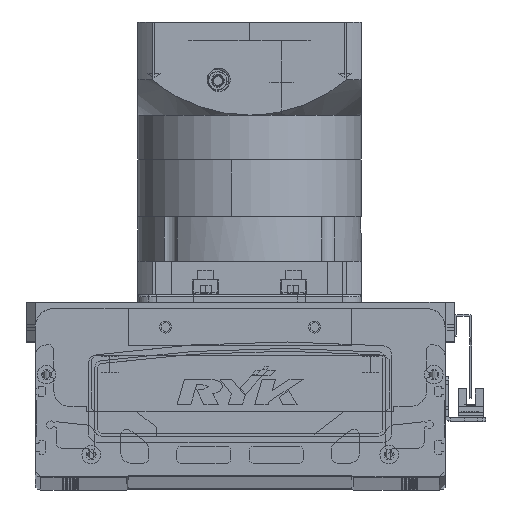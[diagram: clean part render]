
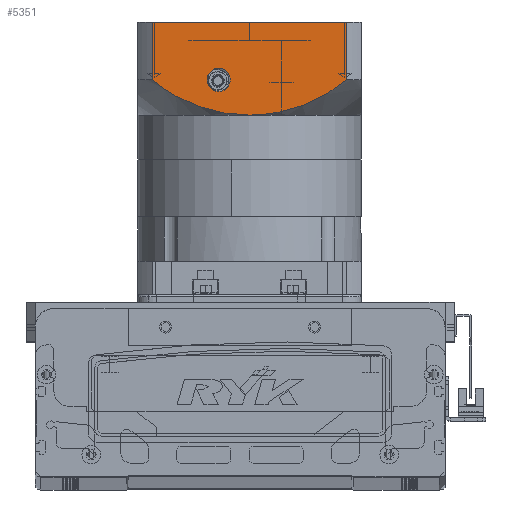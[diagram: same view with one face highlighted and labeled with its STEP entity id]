
A CAD part, top view. The second image highlights one B-rep face of the part: STEP entity #5351.
In plain terms, the highlighted planar face has unit normal (0, 0, 1) as drawn and (0, -1, 0) by its records, which use the part's own axes.
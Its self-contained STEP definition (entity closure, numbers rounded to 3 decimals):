
#598 = VECTOR ( 'NONE', #79415, 1000. ) ;
#1463 = DIRECTION ( 'NONE',  ( 0., 0., -1. ) ) ;
#1960 = EDGE_CURVE ( 'NONE', #49914, #17987, #60780, .T. ) ;
#2011 = CARTESIAN_POINT ( 'NONE',  ( 16.5, -60., -119.5 ) ) ;
#2766 = FACE_OUTER_BOUND ( 'NONE', #41473, .T. ) ;
#3060 = VECTOR ( 'NONE', #60467, 1000. ) ;
#3100 = CARTESIAN_POINT ( 'NONE',  ( -32.118, -60., -107.084 ) ) ;
#5351 = ADVANCED_FACE ( 'NONE', ( #2766, #74619 ), #45780, .T. ) ;
#5975 = CARTESIAN_POINT ( 'NONE',  ( 4.753, -60., -100.5 ) ) ;
#8360 = CARTESIAN_POINT ( 'NONE',  ( -60., -60., -150.5 ) ) ;
#9011 = EDGE_CURVE ( 'NONE', #17987, #69609, #52196, .T. ) ;
#9143 = CARTESIAN_POINT ( 'NONE',  ( -44.656, -60., -113.73 ) ) ;
#10537 = CARTESIAN_POINT ( 'NONE',  ( -4.747, -60., -100.604 ) ) ;
#10790 = CARTESIAN_POINT ( 'NONE',  ( -23.319, -60., -103.777 ) ) ;
#11745 = CARTESIAN_POINT ( 'NONE',  ( 18.739, -60., -102.681 ) ) ;
#12287 = CARTESIAN_POINT ( 'NONE',  ( 19.894, -60., -102.964 ) ) ;
#12516 = EDGE_CURVE ( 'NONE', #61139, #23723, #56477, .T. ) ;
#13900 = CARTESIAN_POINT ( 'NONE',  ( 48.457, -60., -116.522 ) ) ;
#15472 = CARTESIAN_POINT ( 'NONE',  ( -36.409, -60., -109.113 ) ) ;
#17142 = CARTESIAN_POINT ( 'NONE',  ( -11.825, -60., -101.356 ) ) ;
#17637 = CARTESIAN_POINT ( 'NONE',  ( 52.156, -60., -150.5 ) ) ;
#17987 = VERTEX_POINT ( 'NONE', #63182 ) ;
#18305 = LINE ( 'NONE', #67814, #598 ) ;
#18370 = CARTESIAN_POINT ( 'NONE',  ( 9.454, -60., -100.914 ) ) ;
#19136 = ORIENTED_EDGE ( 'NONE', *, *, #27607, .F. ) ;
#19666 = DIRECTION ( 'NONE',  ( 1., 0., 0. ) ) ;
#22454 = ORIENTED_EDGE ( 'NONE', *, *, #9011, .F. ) ;
#23723 = VERTEX_POINT ( 'NONE', #29886 ) ;
#24007 = CARTESIAN_POINT ( 'NONE',  ( -29.939, -60., -106.183 ) ) ;
#24179 = CARTESIAN_POINT ( 'NONE',  ( 0., -60., -100.5 ) ) ;
#25792 = CIRCLE ( 'NONE', #39617, 6.25 ) ;
#26596 = CARTESIAN_POINT ( 'NONE',  ( 16.5, -60., -119.5 ) ) ;
#27019 = EDGE_LOOP ( 'NONE', ( #44348, #78304 ) ) ;
#27607 = EDGE_CURVE ( 'NONE', #61139, #49914, #18305, .T. ) ;
#27674 = CARTESIAN_POINT ( 'NONE',  ( -60., -60., -150.5 ) ) ;
#28797 = ORIENTED_EDGE ( 'NONE', *, *, #12516, .T. ) ;
#29886 = CARTESIAN_POINT ( 'NONE',  ( 52.156, -60., -150.5 ) ) ;
#31231 = CARTESIAN_POINT ( 'NONE',  ( 52.156, -60., -119.5 ) ) ;
#31814 = CARTESIAN_POINT ( 'NONE',  ( 25.577, -60., -104.596 ) ) ;
#33051 = CARTESIAN_POINT ( 'NONE',  ( 16.5, -60., -113.25 ) ) ;
#34050 = VERTEX_POINT ( 'NONE', #33051 ) ;
#35317 = DIRECTION ( 'NONE',  ( 0., 1., 0. ) ) ;
#36315 = CIRCLE ( 'NONE', #47715, 6.25 ) ;
#36354 = CARTESIAN_POINT ( 'NONE',  ( -8.294, -60., -100.916 ) ) ;
#38101 = CARTESIAN_POINT ( 'NONE',  ( 32.196, -60., -107.007 ) ) ;
#38944 = CARTESIAN_POINT ( 'NONE',  ( 44.553, -60., -113.817 ) ) ;
#39617 = AXIS2_PLACEMENT_3D ( 'NONE', #26596, #51842, #70308 ) ;
#40786 = CARTESIAN_POINT ( 'NONE',  ( -35.342, -60., -108.587 ) ) ;
#41473 = EDGE_LOOP ( 'NONE', ( #19136, #28797, #68474, #22454, #50231 ) ) ;
#42699 = CARTESIAN_POINT ( 'NONE',  ( 0., -60., -100.5 ) ) ;
#44348 = ORIENTED_EDGE ( 'NONE', *, *, #75363, .T. ) ;
#45780 = PLANE ( 'NONE',  #50274 ) ;
#47715 = AXIS2_PLACEMENT_3D ( 'NONE', #2011, #35317, #1463 ) ;
#48466 = CARTESIAN_POINT ( 'NONE',  ( -9.477, -60., -101.046 ) ) ;
#49914 = VERTEX_POINT ( 'NONE', #60628 ) ;
#50231 = ORIENTED_EDGE ( 'NONE', *, *, #1960, .F. ) ;
#50274 = AXIS2_PLACEMENT_3D ( 'NONE', #8360, #52299, #19666 ) ;
#50360 = CARTESIAN_POINT ( 'NONE',  ( -52.156, -60., -150.5 ) ) ;
#50480 = CARTESIAN_POINT ( 'NONE',  ( 52.156, -60., -119.5 ) ) ;
#50744 = CARTESIAN_POINT ( 'NONE',  ( 42.555, -60., -112.543 ) ) ;
#50843 = EDGE_CURVE ( 'NONE', #23723, #69609, #80800, .T. ) ;
#51550 = CARTESIAN_POINT ( 'NONE',  ( 23.329, -60., -103.886 ) ) ;
#51842 = DIRECTION ( 'NONE',  ( 0., 1., 0. ) ) ;
#52196 = B_SPLINE_CURVE_WITH_KNOTS ( 'NONE', 3,
 ( #24179, #5975, #18370, #80778, #74497, #11745, #12287, #51550, #31814, #38101, #57293, #69454, #50744, #38944, #75822, #13900, #56770, #50480 ),
 .UNSPECIFIED., .F., .F.,
 ( 4, 2, 2, 2, 2, 2, 2, 2, 4 ),
 ( 0., 0.014, 0.018, 0.021, 0.028, 0.042, 0.046, 0.05, 0.057 ),
 .UNSPECIFIED. ) ;
#52299 = DIRECTION ( 'NONE',  ( 0., -1., 0. ) ) ;
#54202 = CARTESIAN_POINT ( 'NONE',  ( -48.52, -60., -116.438 ) ) ;
#56477 = LINE ( 'NONE', #27674, #69300 ) ;
#56770 = CARTESIAN_POINT ( 'NONE',  ( 50.338, -60., -117.969 ) ) ;
#57293 = CARTESIAN_POINT ( 'NONE',  ( 36.444, -60., -108.986 ) ) ;
#59943 = CARTESIAN_POINT ( 'NONE',  ( -38.51, -60., -110.207 ) ) ;
#60467 = DIRECTION ( 'NONE',  ( 0., 0., 1. ) ) ;
#60628 = CARTESIAN_POINT ( 'NONE',  ( -52.156, -60., -119.5 ) ) ;
#60780 = B_SPLINE_CURVE_WITH_KNOTS ( 'NONE', 3,
 ( #79275, #54202, #9143, #72113, #59943, #15472, #40786, #3100, #24007, #10790, #66860, #67938, #17142, #48466, #36354, #10537, #61050, #42699 ),
 .UNSPECIFIED., .F., .F.,
 ( 4, 2, 2, 2, 2, 2, 2, 2, 4 ),
 ( 0., 0.014, 0.018, 0.021, 0.028, 0.042, 0.046, 0.05, 0.057 ),
 .UNSPECIFIED. ) ;
#61050 = CARTESIAN_POINT ( 'NONE',  ( -2.376, -60., -100.5 ) ) ;
#61139 = VERTEX_POINT ( 'NONE', #50360 ) ;
#63182 = CARTESIAN_POINT ( 'NONE',  ( 0., -60., -100.5 ) ) ;
#65578 = DIRECTION ( 'NONE',  ( 1., 0., 0. ) ) ;
#66860 = CARTESIAN_POINT ( 'NONE',  ( -18.792, -60., -102.562 ) ) ;
#67702 = VERTEX_POINT ( 'NONE', #78211 ) ;
#67814 = CARTESIAN_POINT ( 'NONE',  ( -52.156, -60., -97.5 ) ) ;
#67938 = CARTESIAN_POINT ( 'NONE',  ( -12.993, -60., -101.537 ) ) ;
#68474 = ORIENTED_EDGE ( 'NONE', *, *, #50843, .T. ) ;
#69300 = VECTOR ( 'NONE', #65578, 1000. ) ;
#69454 = CARTESIAN_POINT ( 'NONE',  ( 41.545, -60., -111.931 ) ) ;
#69609 = VERTEX_POINT ( 'NONE', #31231 ) ;
#70308 = DIRECTION ( 'NONE',  ( 0., 0., -1. ) ) ;
#72113 = CARTESIAN_POINT ( 'NONE',  ( -39.546, -60., -110.776 ) ) ;
#72789 = EDGE_CURVE ( 'NONE', #34050, #67702, #25792, .T. ) ;
#74497 = CARTESIAN_POINT ( 'NONE',  ( 16.426, -60., -102.169 ) ) ;
#74619 = FACE_BOUND ( 'NONE', #27019, .T. ) ;
#75363 = EDGE_CURVE ( 'NONE', #67702, #34050, #36315, .T. ) ;
#75822 = CARTESIAN_POINT ( 'NONE',  ( 45.542, -60., -114.478 ) ) ;
#78211 = CARTESIAN_POINT ( 'NONE',  ( 16.5, -60., -125.75 ) ) ;
#78304 = ORIENTED_EDGE ( 'NONE', *, *, #72789, .T. ) ;
#79275 = CARTESIAN_POINT ( 'NONE',  ( -52.156, -60., -119.5 ) ) ;
#79415 = DIRECTION ( 'NONE',  ( 0., 0., 1. ) ) ;
#80778 = CARTESIAN_POINT ( 'NONE',  ( 15.267, -60., -101.938 ) ) ;
#80800 = LINE ( 'NONE', #17637, #3060 ) ;
